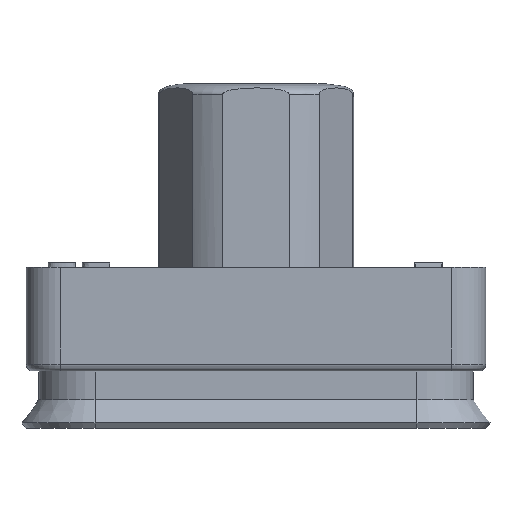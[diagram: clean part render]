
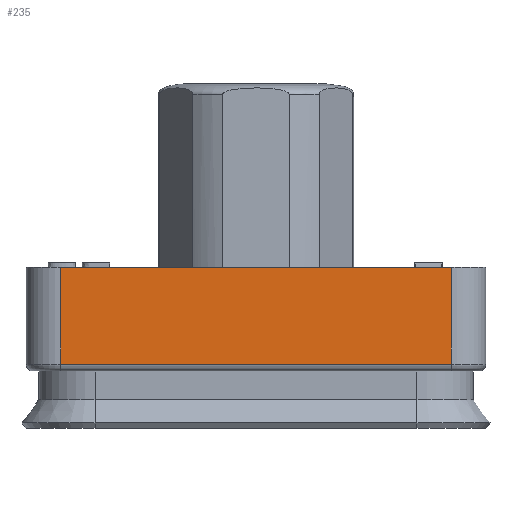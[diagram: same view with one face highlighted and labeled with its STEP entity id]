
A CAD part, front view. The second image highlights one B-rep face of the part: STEP entity #235.
In plain terms, the highlighted planar face has unit normal (0, -1, 0).
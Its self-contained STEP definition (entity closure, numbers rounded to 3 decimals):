
#235 = ADVANCED_FACE( '', ( #599 ), #600, .T. );
#599 = FACE_OUTER_BOUND( '', #1119, .T. );
#600 = PLANE( '', #1120 );
#1119 = EDGE_LOOP( '', ( #1973, #1974, #1975, #1976, #1977, #1978 ) );
#1120 = AXIS2_PLACEMENT_3D( '', #1979, #1980, #1981 );
#1973 = ORIENTED_EDGE( '', *, *, #3443, .F. );
#1974 = ORIENTED_EDGE( '', *, *, #3444, .T. );
#1975 = ORIENTED_EDGE( '', *, *, #3445, .T. );
#1976 = ORIENTED_EDGE( '', *, *, #3439, .F. );
#1977 = ORIENTED_EDGE( '', *, *, #3446, .T. );
#1978 = ORIENTED_EDGE( '', *, *, #3447, .F. );
#1979 = CARTESIAN_POINT( '', ( -8.5, -3.5, -6. ) );
#1980 = DIRECTION( '', ( 0., -1., 0. ) );
#1981 = DIRECTION( '', ( 0., 0., -1. ) );
#3439 = EDGE_CURVE( '', #3957, #4099, #4100, .T. );
#3443 = EDGE_CURVE( '', #4104, #4105, #4106, .T. );
#3444 = EDGE_CURVE( '', #4104, #3966, #4107, .T. );
#3445 = EDGE_CURVE( '', #3966, #4099, #4108, .T. );
#3446 = EDGE_CURVE( '', #3957, #4021, #4109, .T. );
#3447 = EDGE_CURVE( '', #4105, #4021, #4110, .T. );
#3957 = VERTEX_POINT( '', #5017 );
#3966 = VERTEX_POINT( '', #5026 );
#4021 = VERTEX_POINT( '', #5166 );
#4099 = VERTEX_POINT( '', #5328 );
#4100 = LINE( '', #5329, #5330 );
#4104 = VERTEX_POINT( '', #5334 );
#4105 = VERTEX_POINT( '', #5335 );
#4106 = LINE( '', #5336, #5337 );
#4107 = LINE( '', #5338, #5339 );
#4108 = LINE( '', #5340, #5341 );
#4109 = LINE( '', #5342, #5343 );
#4110 = LINE( '', #5344, #5345 );
#5017 = CARTESIAN_POINT( '', ( 2.411, -3.5, -1.5 ) );
#5026 = CARTESIAN_POINT( '', ( 8.5, -3.5, -5.7 ) );
#5166 = CARTESIAN_POINT( '', ( -2.411, -3.5, -1.5 ) );
#5328 = CARTESIAN_POINT( '', ( 8.5, -3.5, -1.5 ) );
#5329 = CARTESIAN_POINT( '', ( -8.5, -3.5, -1.5 ) );
#5330 = VECTOR( '', #6475, 1000. );
#5334 = CARTESIAN_POINT( '', ( -8.5, -3.5, -5.7 ) );
#5335 = CARTESIAN_POINT( '', ( -8.5, -3.5, -1.5 ) );
#5336 = CARTESIAN_POINT( '', ( -8.5, -3.5, -6. ) );
#5337 = VECTOR( '', #6482, 1000. );
#5338 = CARTESIAN_POINT( '', ( 8.5, -3.5, -5.7 ) );
#5339 = VECTOR( '', #6483, 1000. );
#5340 = CARTESIAN_POINT( '', ( 8.5, -3.5, -6. ) );
#5341 = VECTOR( '', #6484, 1000. );
#5342 = CARTESIAN_POINT( '', ( -8.5, -3.5, -1.5 ) );
#5343 = VECTOR( '', #6485, 1000. );
#5344 = CARTESIAN_POINT( '', ( -8.5, -3.5, -1.5 ) );
#5345 = VECTOR( '', #6486, 1000. );
#6475 = DIRECTION( '', ( 1., 0., 0. ) );
#6482 = DIRECTION( '', ( 0., 0., 1. ) );
#6483 = DIRECTION( '', ( 1., 0., 0. ) );
#6484 = DIRECTION( '', ( 0., 0., 1. ) );
#6485 = DIRECTION( '', ( -1., 0., 0. ) );
#6486 = DIRECTION( '', ( 1., 0., 0. ) );
